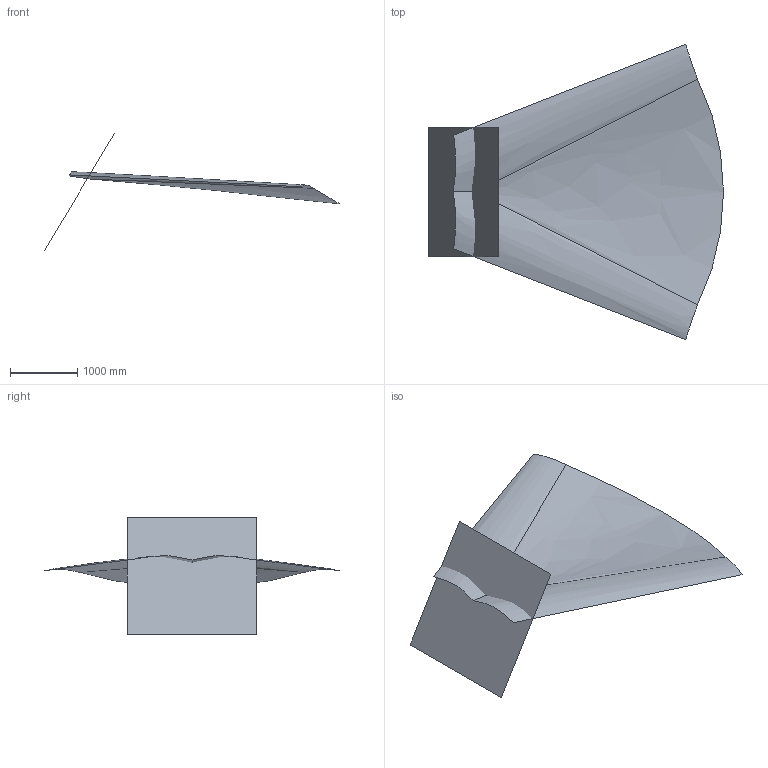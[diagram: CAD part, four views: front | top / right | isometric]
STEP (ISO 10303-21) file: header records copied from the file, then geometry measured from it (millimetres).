
FILE_DESCRIPTION(('CATIA V5 STEP Exchange'),'2;1');
FILE_NAME('C:\Users\ww962c\Desktop\CATIA Working\CRM-HL\rudd01.stp','2022-12-07T20:56:29+00:00',('none'),('none'),'CATIA Version 5-6 Release 2018 SP6 HF6','CATIA V5 STEP AP203','none');
FILE_SCHEMA(('CONFIG_CONTROL_DESIGN'));
Length unit declared in the file: inch
Products named in the file (1): Part4
Bounding box: 4387.44 x 4391.02 x 1733.38 mm (x, y, z)
Surface area: 16144906.5 mm2 (no closed solid volume)
Topology: 0 solids, 2 shells, 4 faces, 16 edges, 14 vertices
Faces by surface type: bspline 2, plane 1, revolution 1
Entity records: 3446 total; most frequent: CARTESIAN_POINT 3296, ORIENTED_EDGE 17, EDGE_CURVE 14, VERTEX_POINT 12, B_SPLINE_CURVE_WITH_KNOTS 10, DIRECTION 9, VECTOR 5, LINE 5
